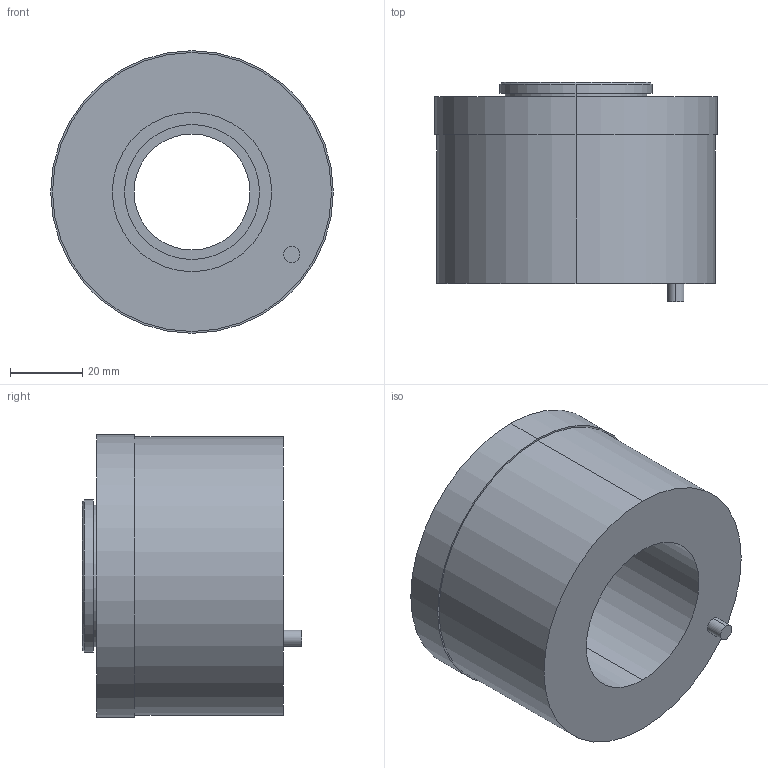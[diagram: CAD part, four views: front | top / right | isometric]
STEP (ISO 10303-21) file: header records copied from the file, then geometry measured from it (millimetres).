
FILE_DESCRIPTION (( 'STEP AP203' ), '1' );
FILE_NAME ('24130三维外形尺寸评估-仲维明-24.08.28.STEP', '2024-08-28T00:12:04', ( '' ), ( '' ), 'SwSTEP 2.0', 'SolidWorks 2016', '' );
FILE_SCHEMA (( 'CONFIG_CONTROL_DESIGN' ));
Length unit declared in the file: millimetre
Products named in the file (1): 24130三维外形尺寸评估-仲维明-24.08.28
Bounding box: 78 x 60.5 x 78 mm (x, y, z)
Volume: 172936.1 mm3; surface area: 28628 mm2
Topology: 1 solids, 1 shells, 29 faces, 58 edges, 38 vertices
Faces by surface type: cylinder 18, plane 9, cone 2
Entity records: 855 total; most frequent: DIRECTION 156, CARTESIAN_POINT 126, ORIENTED_EDGE 116, AXIS2_PLACEMENT_3D 68, EDGE_CURVE 58, CIRCLE 38, EDGE_LOOP 38, VERTEX_POINT 38
